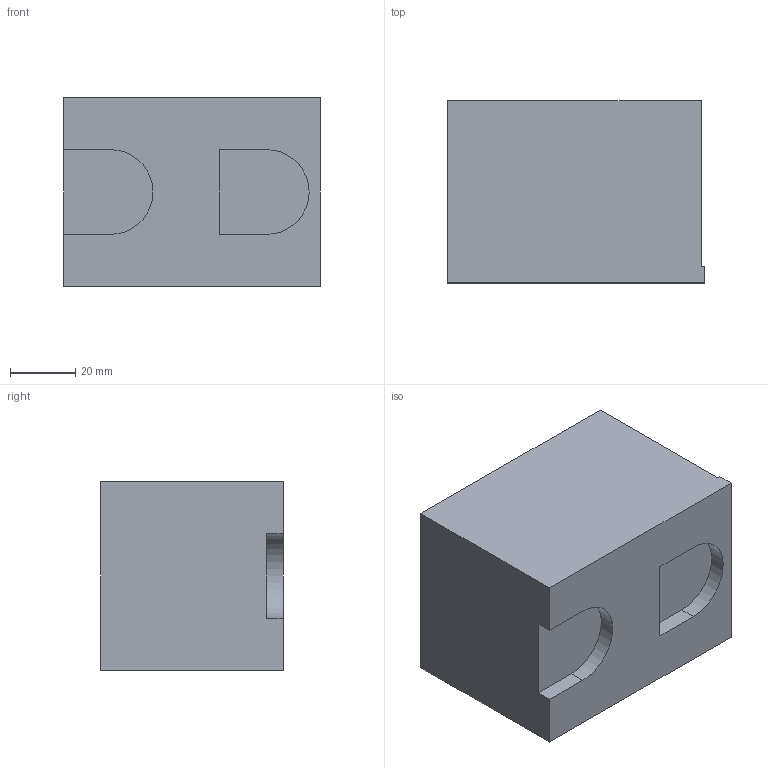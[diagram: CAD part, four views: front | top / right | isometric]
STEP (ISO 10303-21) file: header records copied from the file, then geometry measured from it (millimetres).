
FILE_DESCRIPTION (( 'STEP AP214' ), '1' );
FILE_NAME ('44779-56.STEP', '2020-03-27T13:55:56', ( '' ), ( '' ), 'SwSTEP 2.0', 'SolidWorks 2019', '' );
FILE_SCHEMA (( 'AUTOMOTIVE_DESIGN' ));
Length unit declared in the file: millimetre
Products named in the file (1): 44779-56
Bounding box: 79 x 56 x 58 mm (x, y, z)
Volume: 247209.4 mm3; surface area: 25104.4 mm2
Topology: 1 solids, 1 shells, 17 faces, 42 edges, 28 vertices
Faces by surface type: plane 15, cylinder 2
Entity records: 534 total; most frequent: CARTESIAN_POINT 88, ORIENTED_EDGE 84, DIRECTION 82, EDGE_CURVE 42, VECTOR 38, LINE 38, VERTEX_POINT 28, AXIS2_PLACEMENT_3D 22
